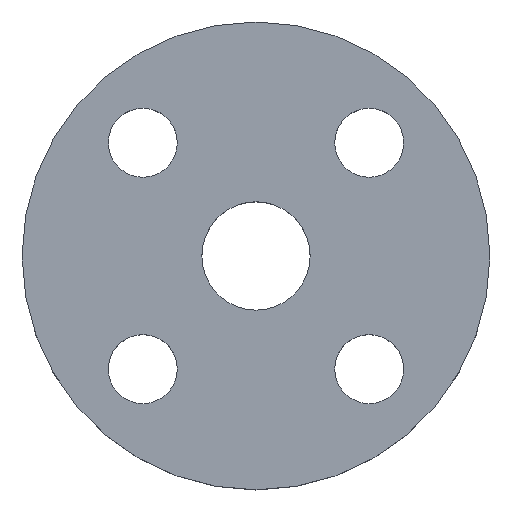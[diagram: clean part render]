
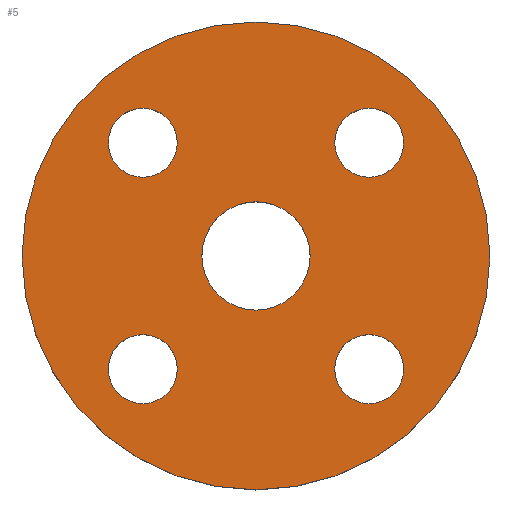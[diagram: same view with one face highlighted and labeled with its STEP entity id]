
A CAD part, top view. The second image highlights one B-rep face of the part: STEP entity #5.
In plain terms, the highlighted planar face has unit normal (0, 0, 1).
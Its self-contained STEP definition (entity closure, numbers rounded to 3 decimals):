
#2 = EDGE_CURVE ( 'NONE', #308, #287, #343, .T. ) ;
#5 = ADVANCED_FACE ( 'NONE', ( #461, #462, #463, #464, #465, #466 ), #467, .T. ) ;
#15 = AXIS2_PLACEMENT_3D ( 'NONE', #226, #230, #231 ) ;
#20 = EDGE_CURVE ( 'NONE', #290, #339, #102, .T. ) ;
#21 = EDGE_CURVE ( 'NONE', #284, #453, #34, .T. ) ;
#24 = CARTESIAN_POINT ( 'NONE',  ( 29.981, 22.981, 0. ) ) ;
#28 = CIRCLE ( 'NONE', #210, 11. ) ;
#34 = CIRCLE ( 'NONE', #396, 7. ) ;
#37 = CIRCLE ( 'NONE', #197, 7. ) ;
#42 = CIRCLE ( 'NONE', #187, 11. ) ;
#43 = AXIS2_PLACEMENT_3D ( 'NONE', #519, #520, #521 ) ;
#45 = CIRCLE ( 'NONE', #43, 7. ) ;
#49 = EDGE_CURVE ( 'NONE', #453, #284, #45, .T. ) ;
#51 = AXIS2_PLACEMENT_3D ( 'NONE', #576, #577, #578 ) ;
#91 = DIRECTION ( 'NONE',  ( 0., 0., -1. ) ) ;
#96 = DIRECTION ( 'NONE',  ( -1., 0., 0. ) ) ;
#99 = AXIS2_PLACEMENT_3D ( 'NONE', #494, #496, #497 ) ;
#102 = CIRCLE ( 'NONE', #99, 7. ) ;
#114 = CIRCLE ( 'NONE', #116, 7. ) ;
#116 = AXIS2_PLACEMENT_3D ( 'NONE', #194, #198, #199 ) ;
#123 = AXIS2_PLACEMENT_3D ( 'NONE', #471, #473, #474 ) ;
#127 = CARTESIAN_POINT ( 'NONE',  ( -22.981, -22.981, 0. ) ) ;
#172 = CARTESIAN_POINT ( 'NONE',  ( -15.981, -22.981, 0. ) ) ;
#173 = CARTESIAN_POINT ( 'NONE',  ( 47.5, 0., 0. ) ) ;
#187 = AXIS2_PLACEMENT_3D ( 'NONE', #582, #583, #585 ) ;
#190 = CARTESIAN_POINT ( 'NONE',  ( -29.981, -22.981, 0. ) ) ;
#192 = CIRCLE ( 'NONE', #51, 47.5 ) ;
#194 = CARTESIAN_POINT ( 'NONE',  ( -22.981, 22.981, 0. ) ) ;
#195 = AXIS2_PLACEMENT_3D ( 'NONE', #573, #574, #575 ) ;
#197 = AXIS2_PLACEMENT_3D ( 'NONE', #569, #570, #571 ) ;
#198 = DIRECTION ( 'NONE',  ( 0., 0., -1. ) ) ;
#199 = DIRECTION ( 'NONE',  ( -1., 0., 0. ) ) ;
#200 = EDGE_CURVE ( 'NONE', #392, #440, #37, .T. ) ;
#201 = CIRCLE ( 'NONE', #195, 7. ) ;
#202 = AXIS2_PLACEMENT_3D ( 'NONE', #127, #91, #96 ) ;
#207 = EDGE_CURVE ( 'NONE', #339, #290, #201, .T. ) ;
#210 = AXIS2_PLACEMENT_3D ( 'NONE', #248, #249, #250 ) ;
#213 = CARTESIAN_POINT ( 'NONE',  ( -11., 0., 0. ) ) ;
#216 = CARTESIAN_POINT ( 'NONE',  ( 29.981, -22.981, 0. ) ) ;
#218 = EDGE_CURVE ( 'NONE', #319, #403, #192, .T. ) ;
#226 = CARTESIAN_POINT ( 'NONE',  ( 0., 0., 0. ) ) ;
#229 = EDGE_CURVE ( 'NONE', #451, #283, #42, .T. ) ;
#230 = DIRECTION ( 'NONE',  ( 0., 0., 1. ) ) ;
#231 = DIRECTION ( 'NONE',  ( 1., 0., 0. ) ) ;
#234 = CIRCLE ( 'NONE', #15, 47.5 ) ;
#248 = CARTESIAN_POINT ( 'NONE',  ( 0., 0., 0. ) ) ;
#249 = DIRECTION ( 'NONE',  ( 0., 0., 1. ) ) ;
#250 = DIRECTION ( 'NONE',  ( 1., 0., 0. ) ) ;
#283 = VERTEX_POINT ( 'NONE', #617 ) ;
#284 = VERTEX_POINT ( 'NONE', #618 ) ;
#287 = VERTEX_POINT ( 'NONE', #620 ) ;
#290 = VERTEX_POINT ( 'NONE', #626 ) ;
#297 = EDGE_LOOP ( 'NONE', ( #370, #371 ) ) ;
#308 = VERTEX_POINT ( 'NONE', #633 ) ;
#319 = VERTEX_POINT ( 'NONE', #639 ) ;
#328 = EDGE_LOOP ( 'NONE', ( #382, #383 ) ) ;
#339 = VERTEX_POINT ( 'NONE', #24 ) ;
#342 = AXIS2_PLACEMENT_3D ( 'NONE', #457, #458, #460 ) ;
#343 = CIRCLE ( 'NONE', #342, 7. ) ;
#368 = ORIENTED_EDGE ( 'NONE', *, *, #49, .T. ) ;
#369 = ORIENTED_EDGE ( 'NONE', *, *, #21, .T. ) ;
#370 = ORIENTED_EDGE ( 'NONE', *, *, #200, .T. ) ;
#371 = ORIENTED_EDGE ( 'NONE', *, *, #625, .T. ) ;
#372 = EDGE_LOOP ( 'NONE', ( #377, #378 ) ) ;
#373 = ORIENTED_EDGE ( 'NONE', *, *, #2, .T. ) ;
#375 = ORIENTED_EDGE ( 'NONE', *, *, #444, .T. ) ;
#377 = ORIENTED_EDGE ( 'NONE', *, *, #207, .T. ) ;
#378 = ORIENTED_EDGE ( 'NONE', *, *, #20, .T. ) ;
#380 = ORIENTED_EDGE ( 'NONE', *, *, #495, .F. ) ;
#381 = ORIENTED_EDGE ( 'NONE', *, *, #229, .F. ) ;
#382 = ORIENTED_EDGE ( 'NONE', *, *, #459, .T. ) ;
#383 = ORIENTED_EDGE ( 'NONE', *, *, #218, .T. ) ;
#392 = VERTEX_POINT ( 'NONE', #172 ) ;
#396 = AXIS2_PLACEMENT_3D ( 'NONE', #498, #499, #500 ) ;
#398 = EDGE_LOOP ( 'NONE', ( #368, #369 ) ) ;
#403 = VERTEX_POINT ( 'NONE', #173 ) ;
#410 = CIRCLE ( 'NONE', #202, 7. ) ;
#418 = EDGE_LOOP ( 'NONE', ( #380, #381 ) ) ;
#440 = VERTEX_POINT ( 'NONE', #190 ) ;
#444 = EDGE_CURVE ( 'NONE', #287, #308, #114, .T. ) ;
#446 = EDGE_LOOP ( 'NONE', ( #373, #375 ) ) ;
#451 = VERTEX_POINT ( 'NONE', #213 ) ;
#453 = VERTEX_POINT ( 'NONE', #216 ) ;
#457 = CARTESIAN_POINT ( 'NONE',  ( -22.981, 22.981, 0. ) ) ;
#458 = DIRECTION ( 'NONE',  ( 0., 0., -1. ) ) ;
#459 = EDGE_CURVE ( 'NONE', #403, #319, #234, .T. ) ;
#460 = DIRECTION ( 'NONE',  ( -1., 0., 0. ) ) ;
#461 = FACE_BOUND ( 'NONE', #398, .T. ) ;
#462 = FACE_BOUND ( 'NONE', #297, .T. ) ;
#463 = FACE_BOUND ( 'NONE', #446, .T. ) ;
#464 = FACE_BOUND ( 'NONE', #372, .T. ) ;
#465 = FACE_BOUND ( 'NONE', #418, .T. ) ;
#466 = FACE_OUTER_BOUND ( 'NONE', #328, .T. ) ;
#467 = PLANE ( 'NONE',  #123 ) ;
#471 = CARTESIAN_POINT ( 'NONE',  ( 0., 0., 0. ) ) ;
#473 = DIRECTION ( 'NONE',  ( 0., 0., 1. ) ) ;
#474 = DIRECTION ( 'NONE',  ( 1., 0., 0. ) ) ;
#494 = CARTESIAN_POINT ( 'NONE',  ( 22.981, 22.981, 0. ) ) ;
#495 = EDGE_CURVE ( 'NONE', #283, #451, #28, .T. ) ;
#496 = DIRECTION ( 'NONE',  ( 0., 0., -1. ) ) ;
#497 = DIRECTION ( 'NONE',  ( -1., 0., 0. ) ) ;
#498 = CARTESIAN_POINT ( 'NONE',  ( 22.981, -22.981, 0. ) ) ;
#499 = DIRECTION ( 'NONE',  ( 0., 0., -1. ) ) ;
#500 = DIRECTION ( 'NONE',  ( -1., 0., 0. ) ) ;
#519 = CARTESIAN_POINT ( 'NONE',  ( 22.981, -22.981, 0. ) ) ;
#520 = DIRECTION ( 'NONE',  ( 0., 0., -1. ) ) ;
#521 = DIRECTION ( 'NONE',  ( -1., 0., 0. ) ) ;
#569 = CARTESIAN_POINT ( 'NONE',  ( -22.981, -22.981, 0. ) ) ;
#570 = DIRECTION ( 'NONE',  ( 0., 0., -1. ) ) ;
#571 = DIRECTION ( 'NONE',  ( -1., 0., 0. ) ) ;
#573 = CARTESIAN_POINT ( 'NONE',  ( 22.981, 22.981, 0. ) ) ;
#574 = DIRECTION ( 'NONE',  ( 0., 0., -1. ) ) ;
#575 = DIRECTION ( 'NONE',  ( -1., 0., 0. ) ) ;
#576 = CARTESIAN_POINT ( 'NONE',  ( 0., 0., 0. ) ) ;
#577 = DIRECTION ( 'NONE',  ( 0., 0., 1. ) ) ;
#578 = DIRECTION ( 'NONE',  ( 1., 0., 0. ) ) ;
#582 = CARTESIAN_POINT ( 'NONE',  ( 0., 0., 0. ) ) ;
#583 = DIRECTION ( 'NONE',  ( 0., 0., 1. ) ) ;
#585 = DIRECTION ( 'NONE',  ( 1., 0., 0. ) ) ;
#617 = CARTESIAN_POINT ( 'NONE',  ( 11., 0., 0. ) ) ;
#618 = CARTESIAN_POINT ( 'NONE',  ( 15.981, -22.981, 0. ) ) ;
#620 = CARTESIAN_POINT ( 'NONE',  ( -29.981, 22.981, 0. ) ) ;
#625 = EDGE_CURVE ( 'NONE', #440, #392, #410, .T. ) ;
#626 = CARTESIAN_POINT ( 'NONE',  ( 15.981, 22.981, 0. ) ) ;
#633 = CARTESIAN_POINT ( 'NONE',  ( -15.981, 22.981, 0. ) ) ;
#639 = CARTESIAN_POINT ( 'NONE',  ( -47.5, 0., 0. ) ) ;
